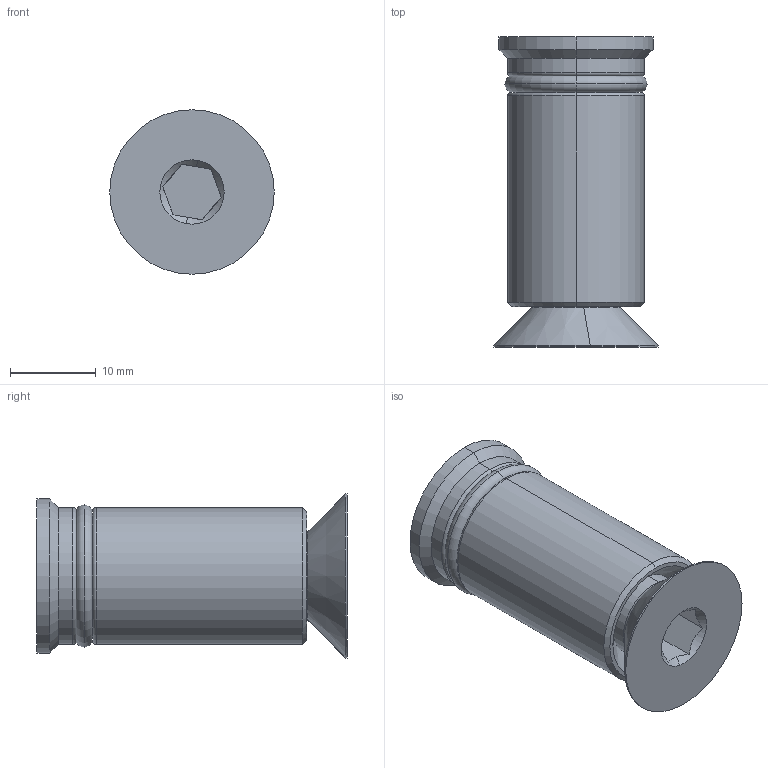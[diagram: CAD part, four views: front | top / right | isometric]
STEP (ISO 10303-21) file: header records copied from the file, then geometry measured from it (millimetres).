
FILE_DESCRIPTION (( 'STEP AP203' ), '1' );
FILE_NAME ('160561.step', '2014-08-11T16:04:47', ( 'User' ), ( '' ), 'SwSTEP 2.0', 'SolidWorks 2014', '' );
FILE_SCHEMA (( 'CONFIG_CONTROL_DESIGN' ));
Length unit declared in the file: millimetre
Products named in the file (4): O-Ring^160561; 160561; 160561 Verbindungsbolzen lang^160561_Detailliert; M10x16 DIN 7991_Foto_Detailliert
Assembly tree (3 placements, depth 2):
  160561
    160561 Verbindungsbolzen lang^160561_Detailliert
    M10x16 DIN 7991_Foto_Detailliert
    O-Ring^160561
Bounding box: 19.2 x 36.21 x 19.2 mm (x, y, z)
Volume: 5560.3 mm3; surface area: 4329.3 mm2
Topology: 3 solids, 3 shells, 62 faces, 134 edges, 80 vertices
Faces by surface type: plane 20, cylinder 14, cone 14, torus 14
Entity records: 2206 total; most frequent: CARTESIAN_POINT 418, DIRECTION 320, ORIENTED_EDGE 268, EDGE_CURVE 134, AXIS2_PLACEMENT_3D 134, VERTEX_POINT 80, EDGE_LOOP 68, CIRCLE 66
